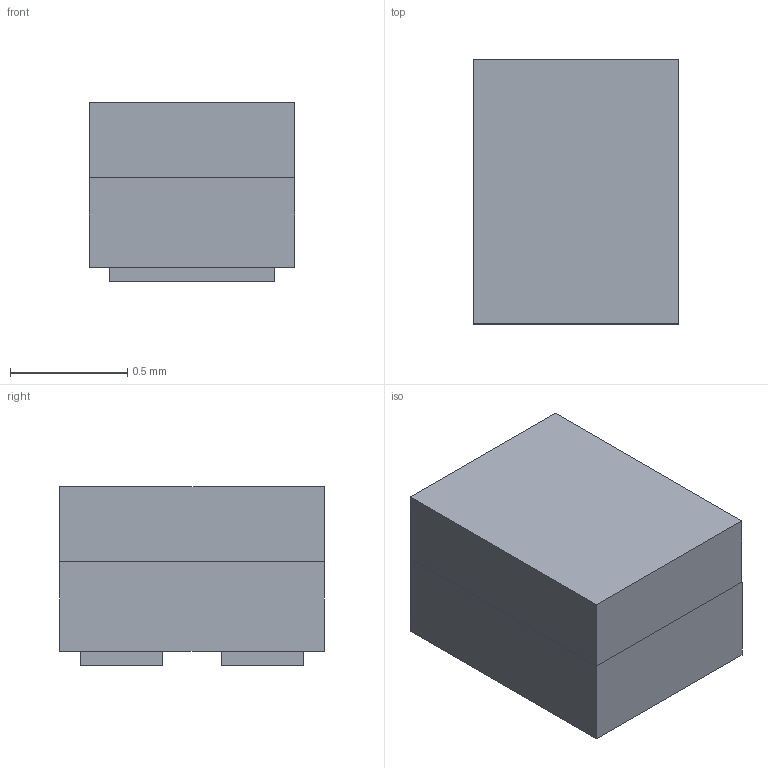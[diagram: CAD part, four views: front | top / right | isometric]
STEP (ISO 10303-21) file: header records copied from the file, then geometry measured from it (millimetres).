
FILE_DESCRIPTION (( 'STEP AP214' ), '1' );
FILE_NAME ('1108.STEP', '2022-12-13T05:53:49', ( 'Sky123.Org' ), ( 'Sky123.Org' ), 'SwSTEP 2.0', 'SolidWorks 2018', '' );
FILE_SCHEMA (( 'AUTOMOTIVE_DESIGN' ));
Length unit declared in the file: millimetre
Products named in the file (1): 1108
Bounding box: 0.88 x 1.12 x 0.76 mm (x, y, z)
Surface area: 5.5 mm2 (no closed solid volume)
Topology: 0 solids, 4 shells, 22 faces, 54 edges, 36 vertices
Faces by surface type: plane 21, cylinder 1
Entity records: 886 total; most frequent: CARTESIAN_POINT 113, DIRECTION 102, ORIENTED_EDGE 90, EDGE_CURVE 54, VECTOR 52, LINE 52, VERTEX_POINT 36, AXIS2_PLACEMENT_3D 25
